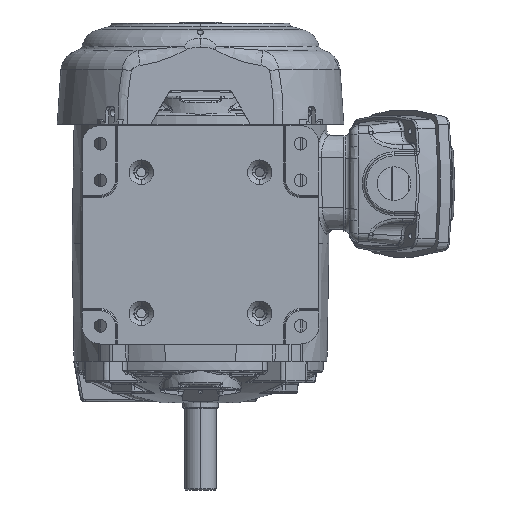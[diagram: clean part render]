
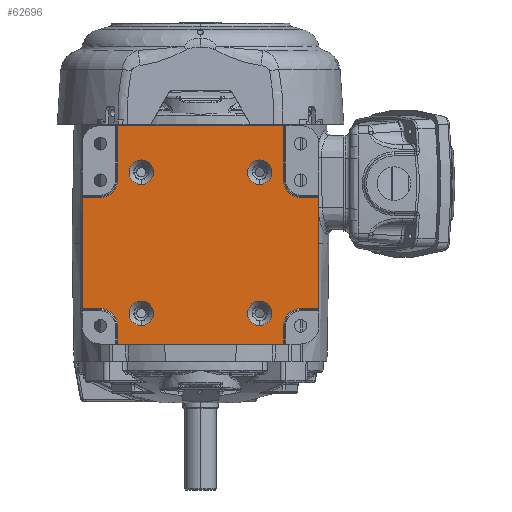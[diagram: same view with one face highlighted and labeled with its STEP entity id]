
A CAD part, front view. The second image highlights one B-rep face of the part: STEP entity #62696.
In plain terms, the highlighted planar face has unit normal (0, -1, 0).
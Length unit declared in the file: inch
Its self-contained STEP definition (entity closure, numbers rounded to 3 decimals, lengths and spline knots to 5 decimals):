
#61026=DIRECTION('',(-1.,0.,0.));
#61027=VECTOR('',#61026,0.5);
#61028=CARTESIAN_POINT('',(3.25,-0.164,-1.03));
#61029=LINE('',#61028,#61027);
#61035=CARTESIAN_POINT('',(2.75,-0.164,-1.5));
#61036=DIRECTION('',(0.,-1.,0.));
#61037=DIRECTION('',(0.,0.,1.));
#61038=AXIS2_PLACEMENT_3D('',#61035,#61036,#61037);
#61214=DIRECTION('',(0.,0.,-1.));
#61215=VECTOR('',#61214,1.5);
#61216=CARTESIAN_POINT('',(2.28,-0.164,-1.5));
#61217=LINE('',#61216,#61215);
#61223=DIRECTION('',(-1.,0.,0.));
#61224=VECTOR('',#61223,4.56);
#61225=CARTESIAN_POINT('',(2.28,-0.164,3.));
#61226=LINE('',#61225,#61224);
#61227=DIRECTION('',(0.,0.,1.));
#61228=VECTOR('',#61227,3.06);
#61229=CARTESIAN_POINT('',(3.25,-0.164,-1.03));
#61230=LINE('',#61229,#61228);
#61231=DIRECTION('',(1.,0.,0.));
#61232=VECTOR('',#61231,4.56);
#61233=CARTESIAN_POINT('',(-2.28,-0.164,-3.));
#61234=LINE('',#61233,#61232);
#61235=DIRECTION('',(0.,0.,-1.));
#61236=VECTOR('',#61235,3.06);
#61237=CARTESIAN_POINT('',(-3.25,-0.164,2.03));
#61238=LINE('',#61237,#61236);
#61239=CARTESIAN_POINT('',(1.625,-0.164,2.156));
#61240=DIRECTION('',(0.,1.,0.));
#61241=DIRECTION('',(0.,0.,-1.));
#61242=AXIS2_PLACEMENT_3D('',#61239,#61240,#61241);
#61244=CARTESIAN_POINT('',(1.625,-0.164,2.156));
#61245=DIRECTION('',(0.,1.,0.));
#61246=DIRECTION('',(0.,0.,1.));
#61247=AXIS2_PLACEMENT_3D('',#61244,#61245,#61246);
#61249=CARTESIAN_POINT('',(-1.625,-0.164,2.156));
#61250=DIRECTION('',(0.,1.,0.));
#61251=DIRECTION('',(0.,0.,-1.));
#61252=AXIS2_PLACEMENT_3D('',#61249,#61250,#61251);
#61254=CARTESIAN_POINT('',(-1.625,-0.164,2.156));
#61255=DIRECTION('',(0.,1.,0.));
#61256=DIRECTION('',(0.,0.,1.));
#61257=AXIS2_PLACEMENT_3D('',#61254,#61255,#61256);
#61259=CARTESIAN_POINT('',(1.625,-0.164,-1.719));
#61260=DIRECTION('',(0.,1.,0.));
#61261=DIRECTION('',(0.,0.,-1.));
#61262=AXIS2_PLACEMENT_3D('',#61259,#61260,#61261);
#61264=CARTESIAN_POINT('',(1.625,-0.164,-1.719));
#61265=DIRECTION('',(0.,1.,0.));
#61266=DIRECTION('',(0.,0.,1.));
#61267=AXIS2_PLACEMENT_3D('',#61264,#61265,#61266);
#61269=CARTESIAN_POINT('',(-1.625,-0.164,-1.719));
#61270=DIRECTION('',(0.,1.,0.));
#61271=DIRECTION('',(0.,0.,-1.));
#61272=AXIS2_PLACEMENT_3D('',#61269,#61270,#61271);
#61274=CARTESIAN_POINT('',(-1.625,-0.164,-1.719));
#61275=DIRECTION('',(0.,1.,0.));
#61276=DIRECTION('',(0.,0.,1.));
#61277=AXIS2_PLACEMENT_3D('',#61274,#61275,#61276);
#61279=DIRECTION('',(1.,0.,0.));
#61280=VECTOR('',#61279,0.5);
#61281=CARTESIAN_POINT('',(-3.25,-0.164,2.03));
#61282=LINE('',#61281,#61280);
#61331=DIRECTION('',(-1.,0.,0.));
#61332=VECTOR('',#61331,0.5);
#61333=CARTESIAN_POINT('',(-2.75,-0.164,-1.03));
#61334=LINE('',#61333,#61332);
#61368=CARTESIAN_POINT('',(-2.75,-0.164,-1.5));
#61369=DIRECTION('',(0.,-1.,0.));
#61370=DIRECTION('',(1.,0.,0.));
#61371=AXIS2_PLACEMENT_3D('',#61368,#61369,#61370);
#61378=DIRECTION('',(0.,0.,1.));
#61379=VECTOR('',#61378,1.5);
#61380=CARTESIAN_POINT('',(-2.28,-0.164,-3.));
#61381=LINE('',#61380,#61379);
#61559=DIRECTION('',(0.,0.,-1.));
#61560=VECTOR('',#61559,0.5);
#61561=CARTESIAN_POINT('',(2.28,-0.164,3.));
#61562=LINE('',#61561,#61560);
#61568=CARTESIAN_POINT('',(2.75,-0.164,2.5));
#61569=DIRECTION('',(0.,-1.,0.));
#61570=DIRECTION('',(-1.,0.,0.));
#61571=AXIS2_PLACEMENT_3D('',#61568,#61569,#61570);
#61611=DIRECTION('',(1.,0.,0.));
#61612=VECTOR('',#61611,0.5);
#61613=CARTESIAN_POINT('',(2.75,-0.164,2.03));
#61614=LINE('',#61613,#61612);
#61625=DIRECTION('',(0.,0.,1.));
#61626=VECTOR('',#61625,0.5);
#61627=CARTESIAN_POINT('',(-2.28,-0.164,2.5));
#61628=LINE('',#61627,#61626);
#61662=CARTESIAN_POINT('',(-2.75,-0.164,2.5));
#61663=DIRECTION('',(0.,-1.,0.));
#61664=DIRECTION('',(0.,0.,-1.));
#61665=AXIS2_PLACEMENT_3D('',#61662,#61663,#61664);
#61961=CARTESIAN_POINT('',(-3.25,-0.164,2.03));
#61962=CARTESIAN_POINT('',(-2.75,-0.164,2.03));
#61963=VERTEX_POINT('',#61961);
#61964=VERTEX_POINT('',#61962);
#61965=CARTESIAN_POINT('',(-2.28,-0.164,2.5));
#61966=VERTEX_POINT('',#61965);
#61967=CARTESIAN_POINT('',(-2.28,-0.164,3.));
#61968=VERTEX_POINT('',#61967);
#61969=CARTESIAN_POINT('',(-2.75,-0.164,-1.03));
#61970=CARTESIAN_POINT('',(-3.25,-0.164,-1.03));
#61971=VERTEX_POINT('',#61969);
#61972=VERTEX_POINT('',#61970);
#61973=CARTESIAN_POINT('',(-2.28,-0.164,-1.5));
#61974=VERTEX_POINT('',#61973);
#61975=CARTESIAN_POINT('',(-2.28,-0.164,-3.));
#61976=VERTEX_POINT('',#61975);
#61977=CARTESIAN_POINT('',(2.75,-0.164,2.03));
#61978=CARTESIAN_POINT('',(3.25,-0.164,2.03));
#61979=VERTEX_POINT('',#61977);
#61980=VERTEX_POINT('',#61978);
#61981=CARTESIAN_POINT('',(2.28,-0.164,2.5));
#61982=VERTEX_POINT('',#61981);
#61983=CARTESIAN_POINT('',(2.28,-0.164,3.));
#61984=VERTEX_POINT('',#61983);
#61985=CARTESIAN_POINT('',(2.28,-0.164,-1.5));
#61986=CARTESIAN_POINT('',(2.28,-0.164,-3.));
#61987=VERTEX_POINT('',#61985);
#61988=VERTEX_POINT('',#61986);
#61989=CARTESIAN_POINT('',(2.75,-0.164,-1.03));
#61990=VERTEX_POINT('',#61989);
#61991=CARTESIAN_POINT('',(3.25,-0.164,-1.03));
#61992=VERTEX_POINT('',#61991);
#62105=CARTESIAN_POINT('',(1.625,-0.164,1.82));
#62106=CARTESIAN_POINT('',(1.625,-0.164,2.492));
#62107=VERTEX_POINT('',#62105);
#62108=VERTEX_POINT('',#62106);
#62117=CARTESIAN_POINT('',(-1.625,-0.164,1.82));
#62118=CARTESIAN_POINT('',(-1.625,-0.164,2.492));
#62119=VERTEX_POINT('',#62117);
#62120=VERTEX_POINT('',#62118);
#62125=CARTESIAN_POINT('',(1.625,-0.164,-2.055));
#62126=CARTESIAN_POINT('',(1.625,-0.164,-1.383));
#62127=VERTEX_POINT('',#62125);
#62128=VERTEX_POINT('',#62126);
#62133=CARTESIAN_POINT('',(-1.625,-0.164,-2.055));
#62134=CARTESIAN_POINT('',(-1.625,-0.164,-1.383));
#62135=VERTEX_POINT('',#62133);
#62136=VERTEX_POINT('',#62134);
#62638=CARTESIAN_POINT('',(0.,-0.164,0.));
#62639=DIRECTION('',(0.,-1.,0.));
#62640=DIRECTION('',(1.,0.,0.));
#62641=AXIS2_PLACEMENT_3D('',#62638,#62639,#62640);
#62642=PLANE('',#62641);
#62644=ORIENTED_EDGE('',*,*,#62643,.T.);
#62646=ORIENTED_EDGE('',*,*,#62645,.T.);
#62648=ORIENTED_EDGE('',*,*,#62647,.T.);
#62650=ORIENTED_EDGE('',*,*,#62649,.F.);
#62652=ORIENTED_EDGE('',*,*,#62651,.T.);
#62654=ORIENTED_EDGE('',*,*,#62653,.T.);
#62656=ORIENTED_EDGE('',*,*,#62655,.T.);
#62657=ORIENTED_EDGE('',*,*,#62370,.F.);
#62658=ORIENTED_EDGE('',*,*,#62418,.T.);
#62659=ORIENTED_EDGE('',*,*,#62433,.T.);
#62660=ORIENTED_EDGE('',*,*,#62632,.T.);
#62661=ORIENTED_EDGE('',*,*,#62605,.F.);
#62663=ORIENTED_EDGE('',*,*,#62662,.T.);
#62665=ORIENTED_EDGE('',*,*,#62664,.T.);
#62667=ORIENTED_EDGE('',*,*,#62666,.T.);
#62669=ORIENTED_EDGE('',*,*,#62668,.F.);
#62670=EDGE_LOOP('',(#62644,#62646,#62648,#62650,#62652,#62654,#62656,#62657,
#62658,#62659,#62660,#62661,#62663,#62665,#62667,#62669));
#62671=FACE_OUTER_BOUND('',#62670,.F.);
#62673=ORIENTED_EDGE('',*,*,#62672,.F.);
#62675=ORIENTED_EDGE('',*,*,#62674,.F.);
#62676=EDGE_LOOP('',(#62673,#62675));
#62677=FACE_BOUND('',#62676,.F.);
#62679=ORIENTED_EDGE('',*,*,#62678,.F.);
#62681=ORIENTED_EDGE('',*,*,#62680,.F.);
#62682=EDGE_LOOP('',(#62679,#62681));
#62683=FACE_BOUND('',#62682,.F.);
#62685=ORIENTED_EDGE('',*,*,#62684,.F.);
#62687=ORIENTED_EDGE('',*,*,#62686,.F.);
#62688=EDGE_LOOP('',(#62685,#62687));
#62689=FACE_BOUND('',#62688,.F.);
#62691=ORIENTED_EDGE('',*,*,#62690,.F.);
#62693=ORIENTED_EDGE('',*,*,#62692,.F.);
#62694=EDGE_LOOP('',(#62691,#62693));
#62695=FACE_BOUND('',#62694,.F.);
#62696=ADVANCED_FACE('',(#62671,#62677,#62683,#62689,#62695),#62642,.T.);
#61039=CIRCLE('',#61038,0.47);
#61243=CIRCLE('',#61242,0.336);
#61248=CIRCLE('',#61247,0.336);
#61253=CIRCLE('',#61252,0.336);
#61258=CIRCLE('',#61257,0.336);
#61263=CIRCLE('',#61262,0.336);
#61268=CIRCLE('',#61267,0.336);
#61273=CIRCLE('',#61272,0.336);
#61278=CIRCLE('',#61277,0.336);
#61372=CIRCLE('',#61371,0.47);
#61572=CIRCLE('',#61571,0.47);
#61666=CIRCLE('',#61665,0.47);
#62370=EDGE_CURVE('',#61992,#61980,#61230,.T.);
#62418=EDGE_CURVE('',#61992,#61990,#61029,.T.);
#62433=EDGE_CURVE('',#61990,#61987,#61039,.T.);
#62605=EDGE_CURVE('',#61976,#61988,#61234,.T.);
#62632=EDGE_CURVE('',#61987,#61988,#61217,.T.);
#62643=EDGE_CURVE('',#61963,#61964,#61282,.T.);
#62645=EDGE_CURVE('',#61964,#61966,#61666,.T.);
#62647=EDGE_CURVE('',#61966,#61968,#61628,.T.);
#62649=EDGE_CURVE('',#61984,#61968,#61226,.T.);
#62651=EDGE_CURVE('',#61984,#61982,#61562,.T.);
#62653=EDGE_CURVE('',#61982,#61979,#61572,.T.);
#62655=EDGE_CURVE('',#61979,#61980,#61614,.T.);
#62662=EDGE_CURVE('',#61976,#61974,#61381,.T.);
#62664=EDGE_CURVE('',#61974,#61971,#61372,.T.);
#62666=EDGE_CURVE('',#61971,#61972,#61334,.T.);
#62668=EDGE_CURVE('',#61963,#61972,#61238,.T.);
#62672=EDGE_CURVE('',#62107,#62108,#61243,.T.);
#62674=EDGE_CURVE('',#62108,#62107,#61248,.T.);
#62678=EDGE_CURVE('',#62119,#62120,#61253,.T.);
#62680=EDGE_CURVE('',#62120,#62119,#61258,.T.);
#62684=EDGE_CURVE('',#62127,#62128,#61263,.T.);
#62686=EDGE_CURVE('',#62128,#62127,#61268,.T.);
#62690=EDGE_CURVE('',#62135,#62136,#61273,.T.);
#62692=EDGE_CURVE('',#62136,#62135,#61278,.T.);
